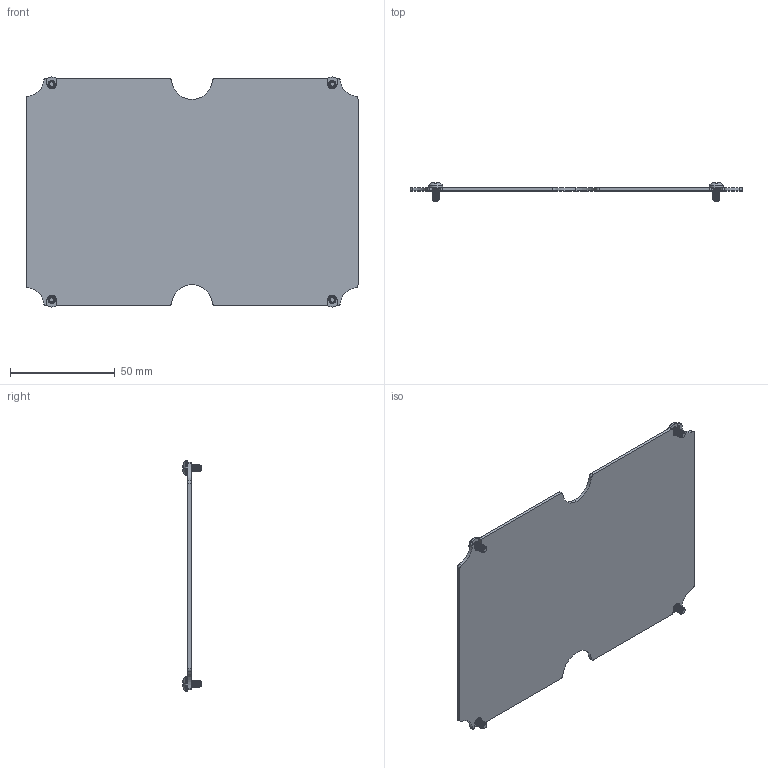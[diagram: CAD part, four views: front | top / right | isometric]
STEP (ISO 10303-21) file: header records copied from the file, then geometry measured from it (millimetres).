
FILE_DESCRIPTION (( 'STEP AP214' ), '1' );
FILE_NAME ('AN-06K.step', '2026-09-17T19:31:58', ( '' ), ( '' ), 'SwSTEP 2.0', 'SolidWorks 2026', '' );
FILE_SCHEMA (( 'AUTOMOTIVE_DESIGN' ));
Length unit declared in the file: inch
Products named in the file (3): SCREWS-050; AN-06-P_DEFAULT; AN-06K
Assembly tree (5 placements, depth 2):
  AN-06K
    AN-06-P_DEFAULT
    SCREWS-050  x4
Bounding box: 158.3 x 8.8 x 109.76 mm (x, y, z)
Volume: 25602.5 mm3; surface area: 34702.8 mm2
Topology: 5 solids, 5 shells, 1389 faces, 3369 edges, 1986 vertices
Faces by surface type: bspline 736, cylinder 345, plane 116, sphere 96, cone 80, torus 16
Entity records: 18041 total; most frequent: CARTESIAN_POINT 10175, ORIENTED_EDGE 1892, DIRECTION 1174, EDGE_CURVE 946, VERTEX_POINT 567, AXIS2_PLACEMENT_3D 435, B_SPLINE_CURVE_WITH_KNOTS 415, EDGE_LOOP 385
